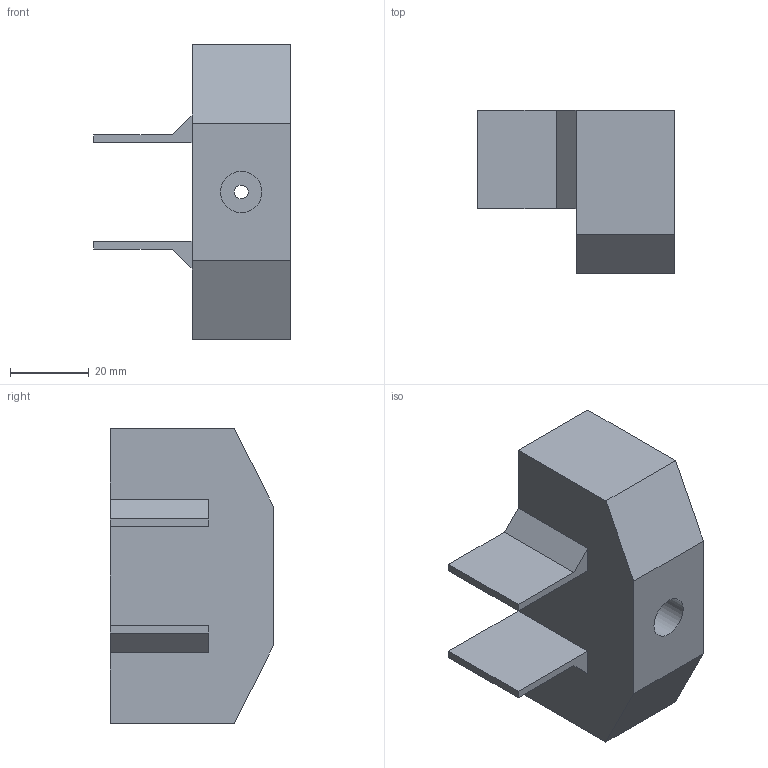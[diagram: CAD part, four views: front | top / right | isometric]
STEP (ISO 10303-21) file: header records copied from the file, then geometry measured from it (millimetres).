
FILE_DESCRIPTION(/* description */ (''),/* implementation_level */ '2;1');
FILE_NAME(/* name */ 'Gleiter v1.step',/* time_stamp */ '2024-09-08T15:25:25+02:00',/* author */ (''),/* organization */ (''),/* preprocessor_version */ 'ST-DEVELOPER v20',/* originating_system */ 'Autodesk Translation Framework v13.14.0.145',/* authorisation */ '');
FILE_SCHEMA (('AUTOMOTIVE_DESIGN { 1 0 10303 214 3 1 1 }'));
Length unit declared in the file: millimetre
Products named in the file (1): Chasis
Bounding box: 50 x 41.5 x 75 mm (x, y, z)
Volume: 72574.9 mm3; surface area: 15155.3 mm2
Topology: 1 solids, 1 shells, 21 faces, 54 edges, 36 vertices
Faces by surface type: plane 19, cylinder 2
Full cylindrical faces by diameter (mm): 3.5 x1, 10.5 x1
Entity records: 676 total; most frequent: CARTESIAN_POINT 112, ORIENTED_EDGE 108, DIRECTION 102, EDGE_CURVE 54, LINE 50, VECTOR 50, VERTEX_POINT 36, AXIS2_PLACEMENT_3D 26
